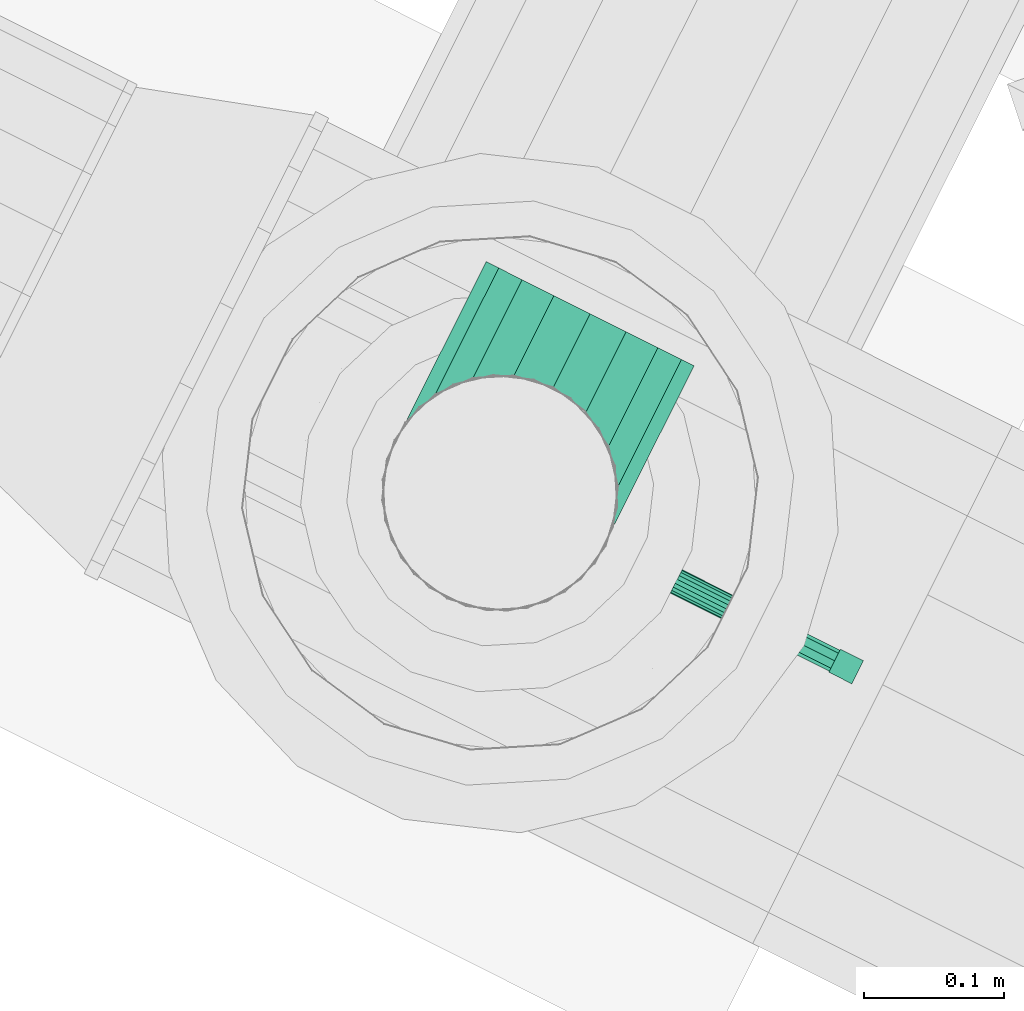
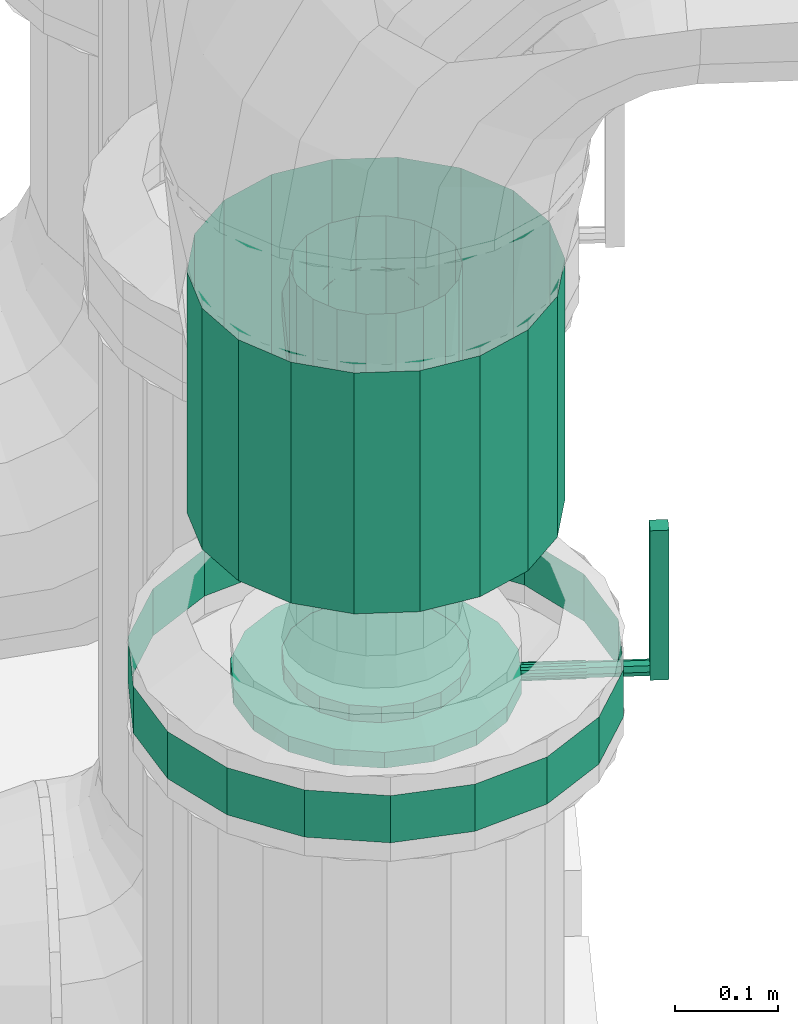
# One storey, part 18 of 152: 1 flow controller, 1 flow fitting.
"""IFC2X3 building model written with IfcOpenShell, lengths in metres."""

import ifcopenshell
import ifcopenshell.guid

model = None  # the IFC model being written
_history = None  # IfcOwnerHistory: only IFC2X3 demands one
_inside = {}  # id of a spatial element -> (the spatial element, [elements in it])
_under = {}  # id of a project, library or spatial element -> (it, [spatial elements below it])
_declared = {}  # id of a project -> (the project, [libraries it declares])
_typed = {}  # id of a type object -> (the type object, [elements of that type])
_made_of = {}  # id of a material, layer set ... -> (it, [elements and type objects made of it])


def new_model(schema):
    """Start an empty IFC model of exactly this schema.

    Asked for "IFC4X3", IfcOpenShell would pick the latest addendum, in which some entities
    have other attributes; the version numbers below select the first issue.
    IFC2X3 requires an IfcOwnerHistory on every rooted entity: one is made here for all.
    """
    global model, _history
    if schema == "IFC4X3":
        model = ifcopenshell.file(schema_version=(4, 3, 0, 0))
    else:
        model = ifcopenshell.file(schema=schema)
    _inside.clear()
    _under.clear()
    _declared.clear()
    _typed.clear()
    _made_of.clear()
    _history = None
    if model.schema == "IFC2X3":
        org = make("IfcOrganization", Name="unknown")
        user = make(
            "IfcPersonAndOrganization",
            ThePerson=make("IfcPerson", FamilyName="unknown"),
            TheOrganization=org,
        )
        app = make(
            "IfcApplication",
            ApplicationDeveloper=org,
            Version="unknown",
            ApplicationFullName="unknown",
            ApplicationIdentifier="unknown",
        )
        _history = make(
            "IfcOwnerHistory",
            OwningUser=user,
            OwningApplication=app,
            ChangeAction="ADDED",
            CreationDate=0,
        )
    return model


def make(cls, **values):
    """One entity of the class cls with the attributes given. An attribute that is None is left unset."""
    return model.create_entity(
        cls, **{name: value for name, value in values.items() if value is not None}
    )


def rooted(cls, **values):
    """An entity with a GlobalId (a new one), such as an element, a storey or a relation."""
    return make(cls, GlobalId=ifcopenshell.guid.new(), OwnerHistory=_history, **values)


def si_unit(unit_type, name, prefix=None):
    """IfcSIUnit, for example si_unit("LENGTHUNIT", "METRE", prefix="MILLI")."""
    return make("IfcSIUnit", UnitType=unit_type, Prefix=prefix, Name=name)


def derived_unit(unit_type, elements):
    """IfcDerivedUnit: a product of units, each with its exponent."""
    return make(
        "IfcDerivedUnit",
        Elements=[
            make("IfcDerivedUnitElement", Unit=unit, Exponent=power)
            for unit, power in elements
        ],
        UnitType=unit_type,
    )


def assignment(units):
    """IfcUnitAssignment: the units of a project."""
    return None if units is None else make("IfcUnitAssignment", Units=units)


def point(xyz):
    """IfcCartesianPoint."""
    return None if xyz is None else make("IfcCartesianPoint", Coordinates=xyz)


def direction(xyz):
    """IfcDirection."""
    return None if xyz is None else make("IfcDirection", DirectionRatios=xyz)


def frame(location, z_axis=None, x_axis=None):
    """IfcAxis2Placement3D, a coordinate frame: its origin and axes. An axis left out is left unset."""
    return make(
        "IfcAxis2Placement3D",
        Location=point(location),
        Axis=direction(z_axis),
        RefDirection=direction(x_axis),
    )


def origin():
    """The frame at (0, 0, 0) with its axes left unset."""
    return frame((0.0, 0.0, 0.0))


def place(relative_to, where):
    """IfcLocalPlacement: puts the frame where relative to a parent placement (None: the world)."""
    return make(
        "IfcLocalPlacement", PlacementRelTo=relative_to, RelativePlacement=where
    )


def context(
    kind, dimensions, precision=None, world=None, true_north=None, identifier=None
):
    """IfcGeometricRepresentationContext, for example the 3D "Model" context."""
    return make(
        "IfcGeometricRepresentationContext",
        ContextIdentifier=identifier,
        ContextType=kind,
        CoordinateSpaceDimension=dimensions,
        Precision=precision,
        WorldCoordinateSystem=world,
        TrueNorth=true_north,
    )


def subcontext(parent, identifier, kind, view, scale=None):
    """IfcGeometricRepresentationSubContext, for example "Body" below "Model"."""
    return make(
        "IfcGeometricRepresentationSubContext",
        ContextIdentifier=identifier,
        ContextType=kind,
        ParentContext=parent,
        TargetScale=scale,
        TargetView=view,
    )


def project(units=None, contexts=None):
    """IfcProject with its units and contexts."""
    return rooted(
        "IfcProject",
        Name="project",
        RepresentationContexts=contexts,
        UnitsInContext=assignment(units),
    )


def spatial(cls, under=None, at=None, **own):
    """A site, building, storey or space (cls), placed at a placement, below another one or the project."""
    s = rooted(cls, ObjectPlacement=at, **own)
    if under is not None:
        _under.setdefault(under.id(), (under, []))[1].append(s)
    return s


def faces_of(points, faces, orient=None, outer=None):
    """IfcFace entities. A face is a list of loops; a loop is a list of indices into points, from 0.

    orient and outer hold one flag for each loop. By default every Orientation is true, the
    first loop of a face is its IfcFaceOuterBound and the others are IfcFaceBound.
    """
    made = []
    for i, loops in enumerate(faces):
        bounds = []
        for j, loop in enumerate(loops):
            is_outer = j == 0 if outer is None else outer[i][j]
            bounds.append(
                make(
                    "IfcFaceOuterBound" if is_outer else "IfcFaceBound",
                    Bound=make("IfcPolyLoop", Polygon=[points[k] for k in loop]),
                    Orientation=True if orient is None else orient[i][j],
                )
            )
        made.append(make("IfcFace", Bounds=bounds))
    return made


def face_set(faces, orient=None, outer=None):
    """The faces of one IfcConnectedFaceSet. surface_model builds it on its shared points."""
    return ("IfcConnectedFaceSet", faces, orient, outer)


def surface_model(cls, points, shells):
    """IfcFaceBasedSurfaceModel or IfcShellBasedSurfaceModel (cls): surfaces that need not close."""
    shared = [point(p) for p in points]
    made = [make(c, CfsFaces=faces_of(shared, fs, o, b)) for c, fs, o, b in shells]
    if cls == "IfcFaceBasedSurfaceModel":
        return make(cls, FbsmFaces=made)
    return make(cls, SbsmBoundary=made)


def shape(context_of_items, identifier, shape_type, items):
    """IfcShapeRepresentation: the items that make up one representation, for example the "Body"."""
    return make(
        "IfcShapeRepresentation",
        ContextOfItems=context_of_items,
        RepresentationIdentifier=identifier,
        RepresentationType=shape_type,
        Items=items,
    )


def source(mapping_origin, context_of_items, identifier, shape_type, items):
    """IfcRepresentationMap: a shape defined once, which mapped items show again and again."""
    return make(
        "IfcRepresentationMap",
        MappingOrigin=mapping_origin,
        MappedRepresentation=shape(context_of_items, identifier, shape_type, items),
    )


def transform(
    local_origin,
    x_axis=None,
    y_axis=None,
    z_axis=None,
    scale=None,
    scale2=None,
    scale3=None,
    uniform=True,
):
    """IfcCartesianTransformationOperator3D, or its non-uniform kind. x_axis, y_axis, z_axis: its Axis1, 2, 3."""
    if uniform:
        return make(
            "IfcCartesianTransformationOperator3D",
            Axis1=direction(x_axis),
            Axis2=direction(y_axis),
            LocalOrigin=point(local_origin),
            Scale=scale,
            Axis3=direction(z_axis),
        )
    return make(
        "IfcCartesianTransformationOperator3DnonUniform",
        Axis1=direction(x_axis),
        Axis2=direction(y_axis),
        LocalOrigin=point(local_origin),
        Scale=scale,
        Axis3=direction(z_axis),
        Scale2=scale2,
        Scale3=scale3,
    )


def mapped(mapping_source, mapping_target):
    """IfcMappedItem: shows the shape of a source again, moved by a transform."""
    return make(
        "IfcMappedItem", MappingSource=mapping_source, MappingTarget=mapping_target
    )


def material(Name=None, Category=None):
    """IfcMaterial."""
    return make("IfcMaterial", Name=Name, Category=Category)


def made_of(thing, what):
    """Note that an element or type object is made of a material, layer set ...; save() writes the relation."""
    if what is not None:
        _made_of.setdefault(what.id(), (what, []))[1].append(thing)
    return thing


def type_object(cls, material=None, **own):
    """A type object (cls), such as IfcWallType, which elements share."""
    return made_of(rooted(cls, **own), material)


def type_shapes(of_type, sources):
    """Give a type object the sources (RepresentationMaps) that its elements show as mapped items."""
    of_type.RepresentationMaps = sources


def element(
    cls,
    number,
    at=None,
    inside=None,
    cuts=None,
    type_object=None,
    material=None,
    context=None,
    identifier="Body",
    shape_type=None,
    held_by="IfcProductDefinitionShape",
    body=None,
    shapes=None,
    **own,
):
    """One element of the class cls, such as IfcWall. Its Tag is "e" and its number.

    at: its placement. inside: the storey or other place that contains it. cuts: it is an
    opening in that element (IfcRelVoidsElement). A single representation is given by context,
    identifier, shape_type and body (its items); several are given by shapes. held_by: the class
    of the entity that holds the representations. save() writes the other relations.
    """
    e = rooted(cls, Tag="e%d" % number, ObjectPlacement=at, **own)
    if body is not None:
        shapes = [shape(context, identifier, shape_type, body)]
    if shapes is not None:
        e.Representation = make(held_by, Representations=shapes)
    if inside is not None:
        _inside.setdefault(inside.id(), (inside, []))[1].append(e)
    if cuts is not None:
        rooted(
            "IfcRelVoidsElement", RelatingBuildingElement=cuts, RelatedOpeningElement=e
        )
    if type_object is not None:
        _typed.setdefault(type_object.id(), (type_object, []))[1].append(e)
    return made_of(e, material)


def aggregate(whole, parts):
    """IfcRelAggregates: a whole, such as a stair, and the parts it consists of."""
    return rooted("IfcRelAggregates", RelatingObject=whole, RelatedObjects=parts)


def save(model, path):
    """Write the relations noted so far, then the file.

    IfcRelAggregates (storeys below a building ...), IfcRelContainedInSpatialStructure (elements
    in a storey), IfcRelDefinesByType, IfcRelAssociatesMaterial and IfcRelDeclares: one each for
    every whole, place, type object, material and project.
    """
    for whole, parts in _under.values():
        aggregate(whole, parts)
    for where, things in _inside.values():
        rooted(
            "IfcRelContainedInSpatialStructure",
            RelatedElements=things,
            RelatingStructure=where,
        )
    for kind, things in _typed.values():
        rooted("IfcRelDefinesByType", RelatedObjects=things, RelatingType=kind)
    for what, things in _made_of.values():
        rooted("IfcRelAssociatesMaterial", RelatedObjects=things, RelatingMaterial=what)
    for by, libraries in _declared.values():
        rooted("IfcRelDeclares", RelatingContext=by, RelatedDefinitions=libraries)
    model.write(path)


model = new_model("IFC2X3")

# Units and contexts
model_context = context("Model", 3, precision=5.2338327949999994e-05, world=origin(), true_north=direction((0.0, 1.0)))
body_context = subcontext(model_context, "Body", "Model", "MODEL_VIEW")
ifc_project = project(units=[si_unit("LENGTHUNIT", "METRE"), si_unit("AREAUNIT", "SQUARE_METRE"), si_unit("VOLUMEUNIT", "CUBIC_METRE"), si_unit("MASSUNIT", "GRAM", prefix="KILO"), si_unit("PLANEANGLEUNIT", "RADIAN"), derived_unit("THERMALTRANSMITTANCEUNIT", [(si_unit("MASSUNIT", "GRAM", prefix="KILO"), 1), (si_unit("THERMODYNAMICTEMPERATUREUNIT", "KELVIN"), -1), (si_unit("TIMEUNIT", "SECOND"), -3)])], contexts=[model_context])

# Site, building, storey
site_placement = place(None, frame((0.0, 0.0, 0.0), z_axis=(0.0, 0.0, 1.0), x_axis=(0.8939966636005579, -0.4480736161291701, 0.0)))
site = spatial("IfcSite", under=ifc_project, at=site_placement, Name="Default", CompositionType="ELEMENT")
building_placement = place(site_placement, origin())
building = spatial("IfcBuilding", under=site, at=building_placement, CompositionType="ELEMENT")
storey_placement = place(building_placement, frame((0.0, 0.0, 2.7499999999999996)))
storey = spatial("IfcBuildingStorey", under=building, at=storey_placement, Name="1. Obergeschoss", CompositionType="ELEMENT", Elevation=2.7499999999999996)

# Flow controller
ifc_material = material(Name="IfcSurfaceStyle #9317")
distribution_element_type_1 = type_object("IfcDistributionElementType", Name="Zwischenflanschklappe 12210:Zwischenflanschklappe 12210", material=ifc_material)
shared_shape_1 = source(origin(), body_context, "Body", "SurfaceModel", [
    surface_model("IfcFaceBasedSurfaceModel", [(11.992414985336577, 5.86598762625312, 4.858603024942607), (11.992414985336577, 5.86598762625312, 4.681103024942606), (11.992414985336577, 5.8475876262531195, 4.681103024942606), (11.992414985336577, 5.8475876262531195, 4.858603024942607), (12.010814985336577, 5.8475876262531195, 4.681103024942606), (12.010814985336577, 5.8475876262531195, 4.858603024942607), (12.010814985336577, 5.86598762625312, 4.681103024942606), (12.010814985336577, 5.86598762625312, 4.858603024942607), (11.725814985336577, 5.764787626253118, 4.718303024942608), (11.694349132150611, 5.770335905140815, 4.718303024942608), (11.694349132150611, 5.770335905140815, 4.69963635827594), (11.725814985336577, 5.764787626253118, 4.69963635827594), (11.666678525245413, 5.786311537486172, 4.718303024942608), (11.666678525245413, 5.786311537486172, 4.69963635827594), (11.646140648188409, 5.810787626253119, 4.718303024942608), (11.646140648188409, 5.810787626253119, 4.69963635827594), (11.635212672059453, 5.840811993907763, 4.718303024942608), (11.635212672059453, 5.840811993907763, 4.69963635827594), (11.635212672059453, 5.872763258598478, 4.718303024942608), (11.635212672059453, 5.872763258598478, 4.69963635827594), (11.646140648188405, 5.9027876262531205, 4.718303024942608), (11.646140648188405, 5.9027876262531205, 4.69963635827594), (11.666678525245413, 5.927263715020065, 4.718303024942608), (11.666678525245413, 5.927263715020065, 4.69963635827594), (11.694349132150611, 5.943239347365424, 4.718303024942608), (11.694349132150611, 5.943239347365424, 4.69963635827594), (11.725814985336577, 5.948787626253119, 4.718303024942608), (11.725814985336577, 5.948787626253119, 4.69963635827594), (11.757280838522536, 5.943239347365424, 4.718303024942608), (11.757280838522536, 5.943239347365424, 4.69963635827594), (11.784951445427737, 5.927263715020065, 4.718303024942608), (11.784951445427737, 5.927263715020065, 4.69963635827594), (11.805489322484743, 5.9027876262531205, 4.718303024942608), (11.805489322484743, 5.9027876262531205, 4.69963635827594), (11.816417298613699, 5.872763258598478, 4.718303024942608), (11.816417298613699, 5.872763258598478, 4.69963635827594), (11.816417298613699, 5.840811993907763, 4.718303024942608), (11.816417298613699, 5.840811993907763, 4.69963635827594), (11.805489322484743, 5.810787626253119, 4.718303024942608), (11.805489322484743, 5.810787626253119, 4.69963635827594), (11.784951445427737, 5.786311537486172, 4.718303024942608), (11.784951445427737, 5.786311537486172, 4.69963635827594), (11.757280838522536, 5.770335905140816, 4.718303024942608), (11.757280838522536, 5.770335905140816, 4.69963635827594), (11.725814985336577, 5.856787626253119, 4.718303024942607), (11.725814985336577, 5.856787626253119, 4.6996363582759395), (11.725814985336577, 5.714287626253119, 4.69963635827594), (11.677077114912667, 5.722881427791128, 4.69963635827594), (11.677077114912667, 5.722881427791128, 4.680969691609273), (11.725814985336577, 5.714287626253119, 4.680969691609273), (11.634217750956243, 5.747626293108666, 4.69963635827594), (11.634217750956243, 5.747626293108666, 4.680969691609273), (11.602406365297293, 5.785537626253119, 4.69963635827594), (11.602406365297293, 5.785537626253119, 4.680969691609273), (11.585479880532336, 5.832042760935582, 4.69963635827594), (11.585479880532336, 5.832042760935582, 4.680969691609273), (11.585479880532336, 5.881532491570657, 4.69963635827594), (11.585479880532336, 5.881532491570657, 4.680969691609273), (11.602406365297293, 5.928037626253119, 4.69963635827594), (11.602406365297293, 5.928037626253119, 4.680969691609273), (11.634217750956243, 5.965948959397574, 4.69963635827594), (11.634217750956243, 5.965948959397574, 4.680969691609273), (11.677077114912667, 5.990693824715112, 4.69963635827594), (11.677077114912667, 5.990693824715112, 4.680969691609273), (11.725814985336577, 5.999287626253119, 4.69963635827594), (11.725814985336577, 5.999287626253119, 4.680969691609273), (11.774552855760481, 5.990693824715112, 4.69963635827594), (11.774552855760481, 5.990693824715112, 4.680969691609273), (11.817412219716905, 5.965948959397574, 4.69963635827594), (11.817412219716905, 5.965948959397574, 4.680969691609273), (11.84922360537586, 5.928037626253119, 4.69963635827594), (11.84922360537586, 5.928037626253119, 4.680969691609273), (11.866150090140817, 5.881532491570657, 4.69963635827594), (11.866150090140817, 5.881532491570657, 4.680969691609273), (11.866150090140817, 5.832042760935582, 4.69963635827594), (11.866150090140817, 5.832042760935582, 4.680969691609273), (11.84922360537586, 5.785537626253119, 4.69963635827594), (11.84922360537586, 5.785537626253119, 4.680969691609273), (11.817412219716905, 5.747626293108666, 4.69963635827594), (11.817412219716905, 5.747626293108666, 4.680969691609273), (11.774552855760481, 5.722881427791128, 4.69963635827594), (11.774552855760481, 5.722881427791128, 4.680969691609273), (11.725814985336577, 5.856787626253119, 4.680969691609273), (11.725814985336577, 5.764787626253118, 4.680969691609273), (11.694349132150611, 5.770335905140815, 4.680969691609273), (11.694349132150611, 5.770335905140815, 4.662303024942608), (11.725814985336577, 5.764787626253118, 4.662303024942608), (11.666678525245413, 5.786311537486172, 4.680969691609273), (11.666678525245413, 5.786311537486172, 4.662303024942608), (11.646140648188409, 5.810787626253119, 4.680969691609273), (11.646140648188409, 5.810787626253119, 4.662303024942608), (11.635212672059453, 5.840811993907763, 4.680969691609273), (11.635212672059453, 5.840811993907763, 4.662303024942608), (11.635212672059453, 5.872763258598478, 4.680969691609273), (11.635212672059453, 5.872763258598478, 4.662303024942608), (11.646140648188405, 5.9027876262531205, 4.680969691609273), (11.646140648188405, 5.9027876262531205, 4.662303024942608), (11.666678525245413, 5.927263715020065, 4.680969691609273), (11.666678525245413, 5.927263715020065, 4.662303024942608), (11.694349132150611, 5.943239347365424, 4.680969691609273), (11.694349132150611, 5.943239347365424, 4.662303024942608), (11.725814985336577, 5.948787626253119, 4.680969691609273), (11.725814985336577, 5.948787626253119, 4.662303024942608), (11.757280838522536, 5.943239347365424, 4.680969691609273), (11.757280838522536, 5.943239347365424, 4.662303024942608), (11.784951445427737, 5.927263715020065, 4.680969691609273), (11.784951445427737, 5.927263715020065, 4.662303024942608), (11.805489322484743, 5.9027876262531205, 4.680969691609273), (11.805489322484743, 5.9027876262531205, 4.662303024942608), (11.816417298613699, 5.872763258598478, 4.680969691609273), (11.816417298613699, 5.872763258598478, 4.662303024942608), (11.816417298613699, 5.840811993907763, 4.680969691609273), (11.816417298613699, 5.840811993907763, 4.662303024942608), (11.805489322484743, 5.810787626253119, 4.680969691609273), (11.805489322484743, 5.810787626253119, 4.662303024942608), (11.784951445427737, 5.786311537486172, 4.680969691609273), (11.784951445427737, 5.786311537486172, 4.662303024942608), (11.757280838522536, 5.770335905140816, 4.680969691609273), (11.757280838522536, 5.770335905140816, 4.662303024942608), (11.725814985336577, 5.856787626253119, 4.662303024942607), (11.725814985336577, 5.847454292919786, 4.690303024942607), (11.725814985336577, 5.848017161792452, 4.687110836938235), (11.930364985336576, 5.848017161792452, 4.687110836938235), (11.930364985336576, 5.847454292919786, 4.690303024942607), (11.725814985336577, 5.849637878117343, 4.684303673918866), (11.930364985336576, 5.849637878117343, 4.684303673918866), (11.725814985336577, 5.852120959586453, 4.682220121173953), (11.930364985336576, 5.852120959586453, 4.682220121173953), (11.725814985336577, 5.855166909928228, 4.681111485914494), (11.930364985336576, 5.855166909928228, 4.681111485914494), (11.725814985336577, 5.85840834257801, 4.681111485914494), (11.930364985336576, 5.85840834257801, 4.681111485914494), (11.725814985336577, 5.861454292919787, 4.682220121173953), (11.930364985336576, 5.861454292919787, 4.682220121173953), (11.725814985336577, 5.863937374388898, 4.6843036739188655), (11.930364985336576, 5.863937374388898, 4.6843036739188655), (11.725814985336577, 5.8655580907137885, 4.687110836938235), (11.930364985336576, 5.8655580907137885, 4.687110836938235), (11.725814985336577, 5.866120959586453, 4.690303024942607), (11.930364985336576, 5.866120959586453, 4.690303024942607), (11.725814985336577, 5.865558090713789, 4.6934952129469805), (11.930364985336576, 5.865558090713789, 4.6934952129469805), (11.725814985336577, 5.863937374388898, 4.696302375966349), (11.930364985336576, 5.863937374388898, 4.696302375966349), (11.725814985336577, 5.861454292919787, 4.6983859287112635), (11.930364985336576, 5.861454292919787, 4.6983859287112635), (11.725814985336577, 5.85840834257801, 4.699494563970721), (11.930364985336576, 5.85840834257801, 4.699494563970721), (11.725814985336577, 5.855166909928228, 4.699494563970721), (11.930364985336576, 5.855166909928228, 4.699494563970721), (11.725814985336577, 5.852120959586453, 4.698385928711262), (11.930364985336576, 5.852120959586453, 4.698385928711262), (11.725814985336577, 5.849637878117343, 4.696302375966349), (11.930364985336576, 5.849637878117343, 4.696302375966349), (11.725814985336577, 5.848017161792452, 4.6934952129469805), (11.930364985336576, 5.848017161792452, 4.6934952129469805), (11.725814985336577, 5.856787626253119, 4.690303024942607), (11.930364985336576, 5.856787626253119, 4.690303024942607), (11.930364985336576, 5.848372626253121, 4.690303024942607), (11.930364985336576, 5.850837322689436, 4.6843527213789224), (11.992414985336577, 5.850837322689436, 4.6843527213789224), (11.992414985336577, 5.848372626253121, 4.690303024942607), (11.930364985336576, 5.856787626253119, 4.681888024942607), (11.992414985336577, 5.856787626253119, 4.681888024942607), (11.930364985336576, 5.862737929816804, 4.6843527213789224), (11.992414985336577, 5.862737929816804, 4.6843527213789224), (11.930364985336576, 5.865202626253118, 4.690303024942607), (11.992414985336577, 5.865202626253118, 4.690303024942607), (11.930364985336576, 5.862737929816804, 4.696253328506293), (11.992414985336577, 5.862737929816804, 4.696253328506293), (11.930364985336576, 5.856787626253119, 4.698718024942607), (11.992414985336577, 5.856787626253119, 4.698718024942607), (11.930364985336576, 5.8508373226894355, 4.696253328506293), (11.992414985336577, 5.8508373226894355, 4.696253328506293), (11.992414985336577, 5.856787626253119, 4.690303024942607), (11.725814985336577, 5.6142876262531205, 4.718303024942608), (11.6428751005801, 5.628912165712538, 4.718303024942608), (11.6428751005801, 5.628912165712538, 4.662303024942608), (11.725814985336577, 5.6142876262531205, 4.662303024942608), (11.569938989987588, 5.671021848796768, 4.718303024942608), (11.569938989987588, 5.671021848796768, 4.662303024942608), (11.515803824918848, 5.73553762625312, 4.718303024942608), (11.515803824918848, 5.73553762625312, 4.662303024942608), (11.486999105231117, 5.814677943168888, 4.718303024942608), (11.486999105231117, 5.814677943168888, 4.662303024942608), (11.486999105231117, 5.898897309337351, 4.718303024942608), (11.486999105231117, 5.898897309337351, 4.662303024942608), (11.515803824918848, 5.978037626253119, 4.718303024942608), (11.515803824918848, 5.978037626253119, 4.662303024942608), (11.569938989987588, 6.042553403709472, 4.718303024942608), (11.569938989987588, 6.042553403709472, 4.662303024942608), (11.6428751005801, 6.084663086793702, 4.718303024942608), (11.6428751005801, 6.084663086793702, 4.662303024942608), (11.725814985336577, 6.09928762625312, 4.718303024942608), (11.725814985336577, 6.09928762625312, 4.662303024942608), (11.80875487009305, 6.084663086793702, 4.718303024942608), (11.80875487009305, 6.084663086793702, 4.662303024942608), (11.88169098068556, 6.042553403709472, 4.718303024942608), (11.88169098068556, 6.042553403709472, 4.662303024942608), (11.9358261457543, 5.978037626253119, 4.718303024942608), (11.9358261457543, 5.978037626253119, 4.662303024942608), (11.964630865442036, 5.898897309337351, 4.718303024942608), (11.964630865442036, 5.898897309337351, 4.662303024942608), (11.964630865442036, 5.814677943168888, 4.718303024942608), (11.964630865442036, 5.814677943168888, 4.662303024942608), (11.935826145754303, 5.73553762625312, 4.718303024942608), (11.935826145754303, 5.73553762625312, 4.662303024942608), (11.88169098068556, 5.671021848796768, 4.718303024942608), (11.88169098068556, 5.671021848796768, 4.662303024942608), (11.80875487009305, 5.628912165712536, 4.718303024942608), (11.80875487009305, 5.628912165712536, 4.662303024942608)], [face_set([[[0, 1, 2, 3]], [[3, 2, 4, 5]], [[5, 4, 6, 7]], [[7, 6, 1, 0]], [[0, 3, 5, 7]], [[6, 4, 2, 1]], [[8, 9, 10, 11]], [[9, 12, 13, 10]], [[12, 14, 15, 13]], [[14, 16, 17, 15]], [[16, 18, 19, 17]], [[18, 20, 21, 19]], [[20, 22, 23, 21]], [[22, 24, 25, 23]], [[24, 26, 27, 25]], [[26, 28, 29, 27]], [[28, 30, 31, 29]], [[30, 32, 33, 31]], [[32, 34, 35, 33]], [[34, 36, 37, 35]], [[36, 38, 39, 37]], [[38, 40, 41, 39]], [[40, 42, 43, 41]], [[42, 8, 11, 43]], [[44, 9, 8]], [[44, 12, 9]], [[44, 14, 12]], [[44, 16, 14]], [[44, 18, 16]], [[44, 20, 18]], [[44, 22, 20]], [[44, 24, 22]], [[44, 26, 24]], [[44, 28, 26]], [[44, 30, 28]], [[44, 32, 30]], [[44, 34, 32]], [[44, 36, 34]], [[44, 38, 36]], [[44, 40, 38]], [[44, 42, 40]], [[44, 8, 42]], [[45, 43, 11]], [[45, 41, 43]], [[45, 39, 41]], [[45, 37, 39]], [[45, 35, 37]], [[45, 33, 35]], [[45, 31, 33]], [[45, 29, 31]], [[45, 27, 29]], [[45, 25, 27]], [[45, 23, 25]], [[45, 21, 23]], [[45, 19, 21]], [[45, 17, 19]], [[45, 15, 17]], [[45, 13, 15]], [[45, 10, 13]], [[45, 11, 10]], [[46, 47, 48, 49]], [[47, 50, 51, 48]], [[50, 52, 53, 51]], [[52, 54, 55, 53]], [[54, 56, 57, 55]], [[56, 58, 59, 57]], [[58, 60, 61, 59]], [[60, 62, 63, 61]], [[62, 64, 65, 63]], [[64, 66, 67, 65]], [[66, 68, 69, 67]], [[68, 70, 71, 69]], [[70, 72, 73, 71]], [[72, 74, 75, 73]], [[74, 76, 77, 75]], [[76, 78, 79, 77]], [[78, 80, 81, 79]], [[80, 46, 49, 81]], [[45, 47, 46]], [[45, 50, 47]], [[45, 52, 50]], [[45, 54, 52]], [[45, 56, 54]], [[45, 58, 56]], [[45, 60, 58]], [[45, 62, 60]], [[45, 64, 62]], [[45, 66, 64]], [[45, 68, 66]], [[45, 70, 68]], [[45, 72, 70]], [[45, 74, 72]], [[45, 76, 74]], [[45, 78, 76]], [[45, 80, 78]], [[45, 46, 80]], [[82, 81, 49]], [[82, 79, 81]], [[82, 77, 79]], [[82, 75, 77]], [[82, 73, 75]], [[82, 71, 73]], [[82, 69, 71]], [[82, 67, 69]], [[82, 65, 67]], [[82, 63, 65]], [[82, 61, 63]], [[82, 59, 61]], [[82, 57, 59]], [[82, 55, 57]], [[82, 53, 55]], [[82, 51, 53]], [[82, 48, 51]], [[82, 49, 48]], [[83, 84, 85, 86]], [[84, 87, 88, 85]], [[87, 89, 90, 88]], [[89, 91, 92, 90]], [[91, 93, 94, 92]], [[93, 95, 96, 94]], [[95, 97, 98, 96]], [[97, 99, 100, 98]], [[99, 101, 102, 100]], [[101, 103, 104, 102]], [[103, 105, 106, 104]], [[105, 107, 108, 106]], [[107, 109, 110, 108]], [[109, 111, 112, 110]], [[111, 113, 114, 112]], [[113, 115, 116, 114]], [[115, 117, 118, 116]], [[117, 83, 86, 118]], [[82, 84, 83]], [[82, 87, 84]], [[82, 89, 87]], [[82, 91, 89]], [[82, 93, 91]], [[82, 95, 93]], [[82, 97, 95]], [[82, 99, 97]], [[82, 101, 99]], [[82, 103, 101]], [[82, 105, 103]], [[82, 107, 105]], [[82, 109, 107]], [[82, 111, 109]], [[82, 113, 111]], [[82, 115, 113]], [[82, 117, 115]], [[82, 83, 117]], [[119, 118, 86]], [[119, 116, 118]], [[119, 114, 116]], [[119, 112, 114]], [[119, 110, 112]], [[119, 108, 110]], [[119, 106, 108]], [[119, 104, 106]], [[119, 102, 104]], [[119, 100, 102]], [[119, 98, 100]], [[119, 96, 98]], [[119, 94, 96]], [[119, 92, 94]], [[119, 90, 92]], [[119, 88, 90]], [[119, 85, 88]], [[119, 86, 85]], [[120, 121, 122, 123]], [[121, 124, 125, 122]], [[124, 126, 127, 125]], [[126, 128, 129, 127]], [[128, 130, 131, 129]], [[130, 132, 133, 131]], [[132, 134, 135, 133]], [[134, 136, 137, 135]], [[136, 138, 139, 137]], [[138, 140, 141, 139]], [[140, 142, 143, 141]], [[142, 144, 145, 143]], [[144, 146, 147, 145]], [[146, 148, 149, 147]], [[148, 150, 151, 149]], [[150, 152, 153, 151]], [[152, 154, 155, 153]], [[154, 120, 123, 155]], [[156, 121, 120]], [[156, 124, 121]], [[156, 126, 124]], [[156, 128, 126]], [[156, 130, 128]], [[156, 132, 130]], [[156, 134, 132]], [[156, 136, 134]], [[156, 138, 136]], [[156, 140, 138]], [[156, 142, 140]], [[156, 144, 142]], [[156, 146, 144]], [[156, 148, 146]], [[156, 150, 148]], [[156, 152, 150]], [[156, 154, 152]], [[156, 120, 154]], [[157, 155, 123]], [[157, 153, 155]], [[157, 151, 153]], [[157, 149, 151]], [[157, 147, 149]], [[157, 145, 147]], [[157, 143, 145]], [[157, 141, 143]], [[157, 139, 141]], [[157, 137, 139]], [[157, 135, 137]], [[157, 133, 135]], [[157, 131, 133]], [[157, 129, 131]], [[157, 127, 129]], [[157, 125, 127]], [[157, 122, 125]], [[157, 123, 122]], [[158, 159, 160, 161]], [[159, 162, 163, 160]], [[162, 164, 165, 163]], [[164, 166, 167, 165]], [[166, 168, 169, 167]], [[168, 170, 171, 169]], [[170, 172, 173, 171]], [[172, 158, 161, 173]], [[174, 173, 161]], [[174, 171, 173]], [[174, 169, 171]], [[174, 167, 169]], [[174, 165, 167]], [[174, 163, 165]], [[174, 160, 163]], [[174, 161, 160]], [[175, 176, 177, 178]], [[176, 179, 180, 177]], [[179, 181, 182, 180]], [[181, 183, 184, 182]], [[183, 185, 186, 184]], [[185, 187, 188, 186]], [[187, 189, 190, 188]], [[189, 191, 192, 190]], [[191, 193, 194, 192]], [[193, 195, 196, 194]], [[195, 197, 198, 196]], [[197, 199, 200, 198]], [[199, 201, 202, 200]], [[201, 203, 204, 202]], [[203, 205, 206, 204]], [[205, 207, 208, 206]], [[207, 209, 210, 208]], [[209, 175, 178, 210]]])]),
])
type_shapes(distribution_element_type_1, [shared_shape_1])
flow_controller_placement = place(storey_placement, frame((0.0, 0.0, -2.7499999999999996)))
element("IfcFlowController", 1, at=flow_controller_placement, inside=storey, type_object=distribution_element_type_1, material=ifc_material, Name="Zwischenflanschklappe", ObjectType="Zwischenflanschklappe", context=body_context, shape_type="MappedRepresentation", body=[
    mapped(shared_shape_1, transform((0.0, 0.0, 0.0), scale=1.0)),
])

# Flow fitting
distribution_element_type_2 = type_object("IfcDistributionElementType", Name="Abzweigstück:Abzweigstück", material=ifc_material)
shared_shape_2 = source(origin(), body_context, "Body", "SurfaceModel", [
    surface_model("IfcFaceBasedSurfaceModel", [(11.80996498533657, 5.856787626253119, 5.17864078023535), (11.804890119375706, 5.828006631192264, 5.17864078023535), (11.804890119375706, 5.828006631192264, 4.89264078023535), (11.80996498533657, 5.856787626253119, 4.89264078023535), (11.790277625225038, 5.802697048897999, 5.17864078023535), (11.790277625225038, 5.802697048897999, 4.89264078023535), (11.767889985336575, 5.783911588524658, 5.17864078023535), (11.767889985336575, 5.783911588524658, 4.89264078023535), (11.740427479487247, 5.773916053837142, 5.17864078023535), (11.740427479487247, 5.773916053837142, 4.89264078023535), (11.711202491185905, 5.773916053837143, 5.17864078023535), (11.711202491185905, 5.773916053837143, 4.89264078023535), (11.683739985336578, 5.783911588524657, 5.17864078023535), (11.683739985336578, 5.783911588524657, 4.89264078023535), (11.661352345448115, 5.802697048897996, 5.17864078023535), (11.661352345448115, 5.802697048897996, 4.89264078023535), (11.646739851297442, 5.828006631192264, 5.17864078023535), (11.646739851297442, 5.828006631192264, 4.89264078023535), (11.641664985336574, 5.856787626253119, 5.178640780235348), (11.641664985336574, 5.856787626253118, 4.89264078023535), (11.646739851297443, 5.8855686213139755, 5.17864078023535), (11.646739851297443, 5.8855686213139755, 4.89264078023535), (11.661352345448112, 5.910878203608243, 5.17864078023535), (11.661352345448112, 5.910878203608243, 4.89264078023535), (11.68373998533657, 5.92966366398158, 5.17864078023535), (11.68373998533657, 5.92966366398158, 4.89264078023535), (11.7112024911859, 5.939659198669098, 5.17864078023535), (11.7112024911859, 5.939659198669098, 4.89264078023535), (11.740427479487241, 5.939659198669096, 5.17864078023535), (11.740427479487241, 5.939659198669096, 4.89264078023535), (11.767889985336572, 5.929663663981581, 5.17864078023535), (11.767889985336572, 5.929663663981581, 4.89264078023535), (11.790277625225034, 5.910878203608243, 5.17864078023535), (11.790277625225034, 5.910878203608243, 4.89264078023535), (11.804890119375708, 5.8855686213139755, 5.17864078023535), (11.804890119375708, 5.8855686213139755, 4.89264078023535), (11.725814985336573, 5.940937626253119, 4.95149078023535), (11.697033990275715, 5.935862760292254, 4.956565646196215), (11.697033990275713, 5.999787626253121, 4.956565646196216), (11.725814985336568, 5.999787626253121, 4.951490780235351), (11.671724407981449, 5.921250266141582, 4.971178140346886), (11.671724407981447, 5.999787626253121, 4.971178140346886), (11.652938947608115, 5.89886262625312, 4.9935657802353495), (11.652938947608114, 5.99978762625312, 4.9935657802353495), (11.642943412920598, 5.8714001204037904, 5.021028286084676), (11.642943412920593, 5.99978762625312, 5.021028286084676), (11.642943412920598, 5.8714001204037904, 5.050253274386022), (11.642943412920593, 5.99978762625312, 5.050253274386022), (11.652938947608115, 5.89886262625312, 5.077715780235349), (11.652938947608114, 5.99978762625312, 5.07771578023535), (11.671724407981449, 5.921250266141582, 5.100103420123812), (11.671724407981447, 5.999787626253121, 5.100103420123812), (11.697033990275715, 5.935862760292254, 5.114715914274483), (11.697033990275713, 5.999787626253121, 5.114715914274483), (11.725814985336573, 5.940937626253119, 5.11979078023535), (11.725814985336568, 5.999787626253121, 5.11979078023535), (11.754595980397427, 5.935862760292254, 5.114715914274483), (11.754595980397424, 5.999787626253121, 5.114715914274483), (11.779905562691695, 5.921250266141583, 5.100103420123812), (11.779905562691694, 5.999787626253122, 5.100103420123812), (11.79869102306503, 5.89886262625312, 5.077715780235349), (11.798691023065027, 5.999787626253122, 5.077715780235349), (11.80868655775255, 5.871400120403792, 5.050253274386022), (11.808686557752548, 5.999787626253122, 5.050253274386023), (11.808686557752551, 5.871400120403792, 5.021028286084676), (11.808686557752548, 5.999787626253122, 5.021028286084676), (11.79869102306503, 5.89886262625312, 4.9935657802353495), (11.798691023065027, 5.999787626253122, 4.9935657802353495), (11.779905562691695, 5.921250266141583, 4.971178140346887), (11.779905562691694, 5.999787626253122, 4.971178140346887), (11.754595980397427, 5.935862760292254, 4.956565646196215), (11.754595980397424, 5.999787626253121, 4.956565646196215), (11.909964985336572, 5.856787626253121, 5.17864078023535), (11.8988593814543, 5.793804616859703, 5.17864078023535), (11.8988593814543, 5.793804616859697, 4.89264078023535), (11.909964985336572, 5.856787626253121, 4.89264078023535), (11.866882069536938, 5.738418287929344, 5.17864078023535), (11.866882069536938, 5.738418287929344, 4.89264078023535), (11.817889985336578, 5.697309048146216, 5.17864078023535), (11.817889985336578, 5.697309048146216, 4.89264078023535), (11.757792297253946, 5.675435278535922, 5.17864078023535), (11.757792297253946, 5.675435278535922, 4.89264078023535), (11.693837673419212, 5.675435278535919, 5.17864078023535), (11.693837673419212, 5.675435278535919, 4.89264078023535), (11.633739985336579, 5.697309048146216, 5.17864078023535), (11.633739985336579, 5.697309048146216, 4.89264078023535), (11.58474790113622, 5.738418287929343, 5.17864078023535), (11.58474790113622, 5.738418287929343, 4.89264078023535), (11.552770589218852, 5.793804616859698, 5.17864078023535), (11.552770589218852, 5.793804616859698, 4.89264078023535), (11.541664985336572, 5.856787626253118, 5.17864078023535), (11.541664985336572, 5.856787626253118, 4.89264078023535), (11.552770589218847, 5.91977063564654, 5.17864078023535), (11.552770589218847, 5.91977063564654, 4.89264078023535), (11.584747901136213, 5.975156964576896, 5.17864078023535), (11.584747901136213, 5.975156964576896, 4.89264078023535), (11.633739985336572, 6.016266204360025, 5.17864078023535), (11.633739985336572, 6.016266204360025, 4.89264078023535), (11.693837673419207, 6.038139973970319, 5.17864078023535), (11.693837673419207, 6.038139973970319, 4.89264078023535), (11.757792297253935, 6.038139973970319, 5.17864078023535), (11.757792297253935, 6.038139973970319, 4.89264078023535), (11.81788998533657, 6.016266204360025, 5.17864078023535), (11.81788998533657, 6.016266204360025, 4.89264078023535), (11.866882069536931, 5.975156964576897, 5.17864078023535), (11.866882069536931, 5.975156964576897, 4.89264078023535), (11.898859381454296, 5.919770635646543, 5.17864078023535), (11.898859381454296, 5.919770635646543, 4.89264078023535)], [face_set([[[0, 1, 2, 3]], [[1, 4, 5, 2]], [[4, 6, 7, 5]], [[6, 8, 9, 7]], [[8, 10, 11, 9]], [[10, 12, 13, 11]], [[12, 14, 15, 13]], [[14, 16, 17, 15]], [[16, 18, 19, 17]], [[18, 20, 21, 19]], [[20, 22, 23, 21]], [[22, 24, 25, 23]], [[24, 26, 27, 25]], [[26, 28, 29, 27]], [[28, 30, 31, 29]], [[30, 32, 33, 31]], [[32, 34, 35, 33]], [[34, 0, 3, 35]], [[36, 37, 38, 39]], [[37, 40, 41, 38]], [[40, 42, 43, 41]], [[42, 44, 45, 43]], [[44, 46, 47, 45]], [[46, 48, 49, 47]], [[48, 50, 51, 49]], [[50, 52, 53, 51]], [[52, 54, 55, 53]], [[54, 56, 57, 55]], [[56, 58, 59, 57]], [[58, 60, 61, 59]], [[60, 62, 63, 61]], [[62, 64, 65, 63]], [[64, 66, 67, 65]], [[66, 68, 69, 67]], [[68, 70, 71, 69]], [[70, 36, 39, 71]], [[72, 73, 74, 75]], [[73, 76, 77, 74]], [[76, 78, 79, 77]], [[78, 80, 81, 79]], [[80, 82, 83, 81]], [[82, 84, 85, 83]], [[84, 86, 87, 85]], [[86, 88, 89, 87]], [[88, 90, 91, 89]], [[90, 92, 93, 91]], [[92, 94, 95, 93]], [[94, 96, 97, 95]], [[96, 98, 99, 97]], [[98, 100, 101, 99]], [[100, 102, 103, 101]], [[102, 104, 105, 103]], [[104, 106, 107, 105]], [[106, 72, 75, 107]]])]),
])
type_shapes(distribution_element_type_2, [shared_shape_2])
flow_fitting_placement = place(storey_placement, frame((0.0, 0.0, -2.7499999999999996)))
element("IfcFlowFitting", 2, at=flow_fitting_placement, inside=storey, type_object=distribution_element_type_2, material=ifc_material, Name="Abzweigstück", ObjectType="Abzweigstück", context=body_context, shape_type="MappedRepresentation", body=[
    mapped(shared_shape_2, transform((0.0, 0.0, 0.0), scale=1.0)),
])

save(model, "model.ifc")
